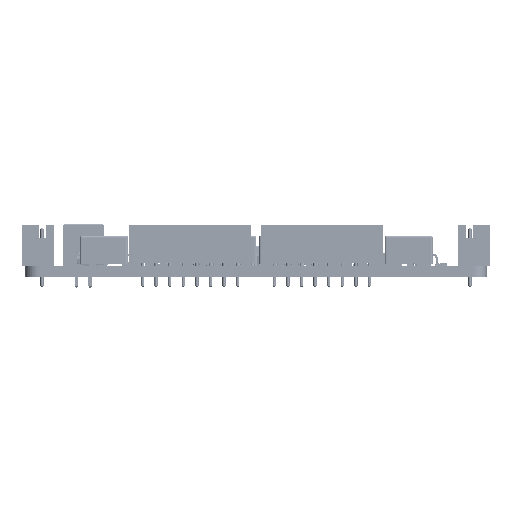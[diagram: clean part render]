
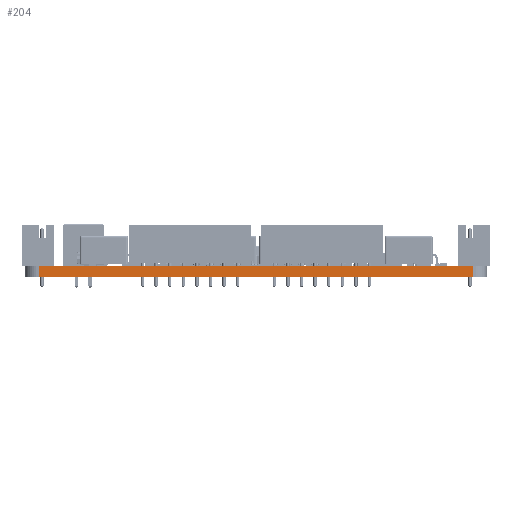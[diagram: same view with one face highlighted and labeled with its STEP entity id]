
A CAD part, front view. The second image highlights one B-rep face of the part: STEP entity #204.
In plain terms, the highlighted planar face has unit normal (0, -1, 0).
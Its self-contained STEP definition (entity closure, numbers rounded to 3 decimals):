
#177 = VERTEX_POINT('',#178);
#178 = CARTESIAN_POINT('',(66.,0.013,    1.6));
#185 = EDGE_CURVE('',#186,#177,#188,.T.);
#186 = VERTEX_POINT('',#187);
#187 = CARTESIAN_POINT('',(66.,0.013,0.));
#188 = LINE('',#189,#190);
#189 = CARTESIAN_POINT('',(66.,0.013,0.));
#190 = VECTOR('',#191,1.);
#191 = DIRECTION('',(0.,0.,1.));
#204 = ADVANCED_FACE('',(#205),#230,.T.);
#205 = FACE_BOUND('',#206,.T.);
#206 = EDGE_LOOP('',(#207,#208,#216,#224));
#207 = ORIENTED_EDGE('',*,*,#185,.T.);
#208 = ORIENTED_EDGE('',*,*,#209,.T.);
#209 = EDGE_CURVE('',#177,#210,#212,.T.);
#210 = VERTEX_POINT('',#211);
#211 = CARTESIAN_POINT('',(2.,0.013,    1.6));
#212 = LINE('',#213,#214);
#213 = CARTESIAN_POINT('',(66.,0.013,    1.6));
#214 = VECTOR('',#215,1.);
#215 = DIRECTION('',(-1.,0.,0.));
#216 = ORIENTED_EDGE('',*,*,#217,.F.);
#217 = EDGE_CURVE('',#218,#210,#220,.T.);
#218 = VERTEX_POINT('',#219);
#219 = CARTESIAN_POINT('',(2.,0.013,0.));
#220 = LINE('',#221,#222);
#221 = CARTESIAN_POINT('',(2.,0.013,0.));
#222 = VECTOR('',#223,1.);
#223 = DIRECTION('',(0.,0.,1.));
#224 = ORIENTED_EDGE('',*,*,#225,.F.);
#225 = EDGE_CURVE('',#186,#218,#226,.T.);
#226 = LINE('',#227,#228);
#227 = CARTESIAN_POINT('',(66.,0.013,0.));
#228 = VECTOR('',#229,1.);
#229 = DIRECTION('',(-1.,0.,0.));
#230 = PLANE('',#231);
#231 = AXIS2_PLACEMENT_3D('',#232,#233,#234);
#232 = CARTESIAN_POINT('',(66.,0.013,0.));
#233 = DIRECTION('',(0.,-1.,0.));
#234 = DIRECTION('',(-1.,0.,0.));
